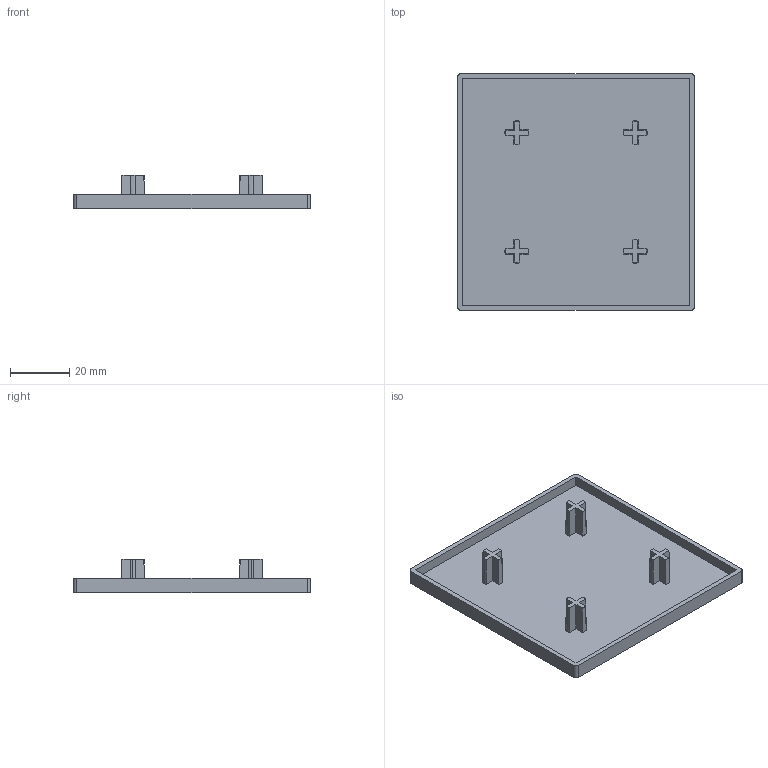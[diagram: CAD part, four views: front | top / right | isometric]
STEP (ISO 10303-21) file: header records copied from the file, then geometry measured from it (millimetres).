
FILE_DESCRIPTION (( 'STEP AP203' ), '1' );
FILE_NAME ('EC8080-8.STEP', '2024-02-19T05:55:02', ( '' ), ( '' ), 'SwSTEP 2.0', 'SolidWorks 2022', '' );
FILE_SCHEMA (( 'CONFIG_CONTROL_DESIGN' ));
Length unit declared in the file: millimetre
Products named in the file (1): EC8080-8
Bounding box: 80 x 80 x 11.5 mm (x, y, z)
Volume: 12214.3 mm3; surface area: 16663.8 mm2
Topology: 1 solids, 1 shells, 71 faces, 192 edges, 128 vertices
Faces by surface type: plane 47, cone 20, cylinder 4
Entity records: 2439 total; most frequent: CARTESIAN_POINT 584, ORIENTED_EDGE 384, DIRECTION 352, EDGE_CURVE 192, VERTEX_POINT 128, AXIS2_PLACEMENT_3D 120, VECTOR 112, LINE 112
